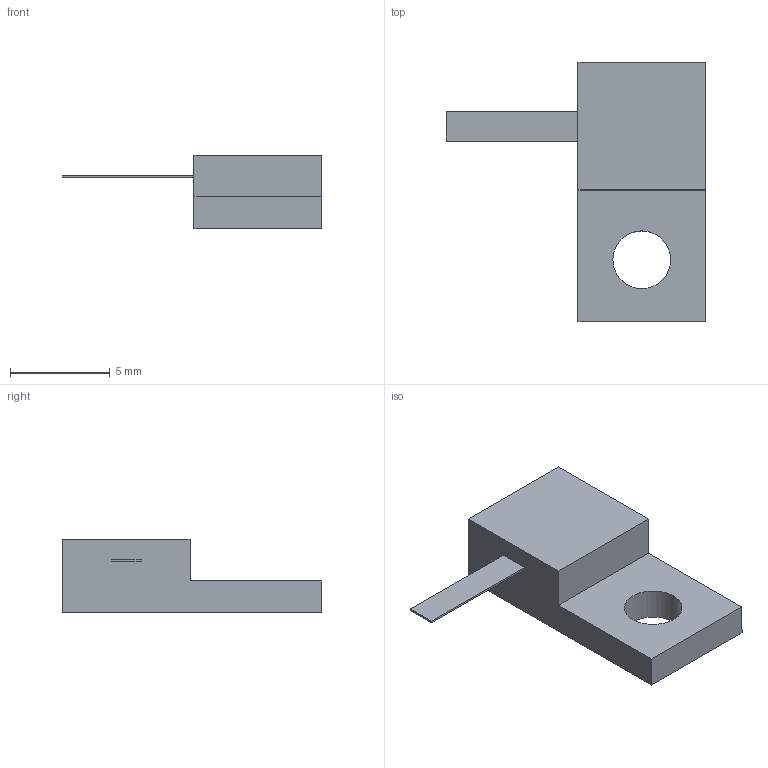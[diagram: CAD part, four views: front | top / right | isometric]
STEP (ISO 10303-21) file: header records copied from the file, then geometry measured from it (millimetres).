
FILE_DESCRIPTION(('STEP AP203'), '1');
FILE_NAME('P1-170-60-07', '', ('UNSPECIFIED'), ('UNSPECIFIED'), 'ASCON STEP Converter 1.6', 'ASCON Math Kernel', '');
FILE_SCHEMA(('CONFIG_CONTROL_DESIGN'));
Length unit declared in the file: millimetre
Bounding box: 13 x 13 x 3.7 mm (x, y, z)
Volume: 209.6 mm3; surface area: 304.7 mm2
Topology: 1 solids, 1 shells, 14 faces, 33 edges, 22 vertices
Faces by surface type: plane 13, cylinder 1
Full cylindrical faces by diameter (mm): 2.9 x1
Entity records: 554 total; most frequent: CARTESIAN_POINT 69, DIRECTION 64, ORIENTED_EDGE 64, EDGE_CURVE 32, LINE 30, VECTOR 30, VERTEX_POINT 22, EDGE_LOOP 18
